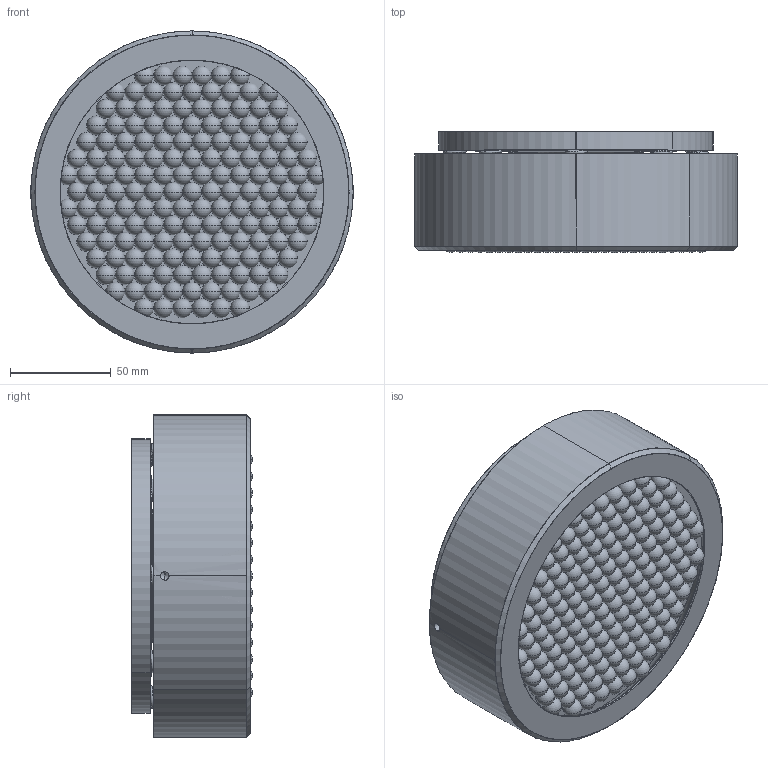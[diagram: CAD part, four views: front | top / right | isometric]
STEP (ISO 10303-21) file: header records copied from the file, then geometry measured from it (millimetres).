
FILE_DESCRIPTION (( 'STEP AP203' ), '1' );
FILE_NAME ('PS80-1.5兛.STEP', '2020-09-03T03:27:02', ( '' ), ( '' ), 'SwSTEP 2.0', 'SolidWorks 2013', '' );
FILE_SCHEMA (( 'CONFIG_CONTROL_DESIGN' ));
Length unit declared in the file: millimetre
Products named in the file (1): PS80-1.5α
Bounding box: 160 x 60 x 160 mm (x, y, z)
Surface area: 931482.5 mm2
Topology: 382 solids, 382 shells, 1372 faces, 4158 edges, 2846 vertices
Faces by surface type: sphere 780, cylinder 320, plane 160, cone 80, bspline 16, torus 16
Entity records: 46195 total; most frequent: CARTESIAN_POINT 18737, DIRECTION 6574, ORIENTED_EDGE 4512, AXIS2_PLACEMENT_3D 3049, EDGE_CURVE 2256, VERTEX_POINT 1724, CIRCLE 1692, EDGE_LOOP 1528
